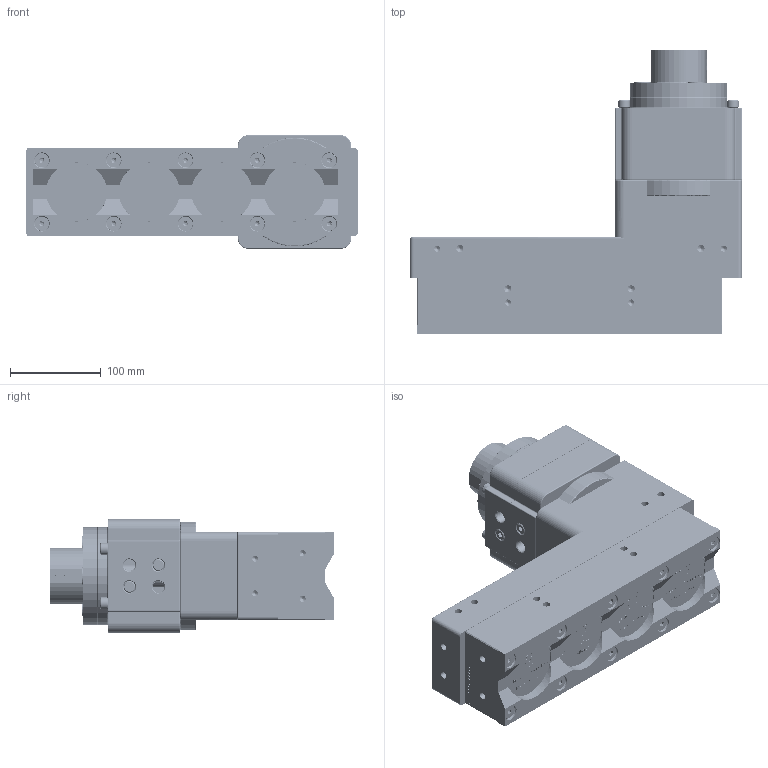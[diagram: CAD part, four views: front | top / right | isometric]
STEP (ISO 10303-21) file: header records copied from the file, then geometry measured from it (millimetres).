
FILE_DESCRIPTION (( 'STEP AP214' ), '1' );
FILE_NAME ('81401520_CFM_S.STEP', '2024-03-15T21:23:48', ( '' ), ( '' ), 'SwSTEP 2.0', 'SolidWorks 2022', '' );
FILE_SCHEMA (( 'AUTOMOTIVE_DESIGN' ));
Length unit declared in the file: millimetre
Products named in the file (18): 180790; 320319; 180718; 300938; CDRB1BW100-180S_CRB-Body; 7050188; 280032; 3002227; 180791; 240711; 7000659; 180047-1; 81401520_CFM_S; 180789; 7010411(Ä¬ÈÏ-_flexible1); CDRB1BW100-180S_CRB-Rod; 320070; 180311
Assembly tree (43 placements, depth 3):
  81401520_CFM_S
    7000659
      240711
      320070  x4
      320319  x2
      180047-1  x10
    280032
      CDRB1BW100-180S_CRB-Body
      CDRB1BW100-180S_CRB-Rod
    7010411(Ä¬ÈÏ-_flexible1)
      3002227
    180311  x4
    180718  x6
    7050188
      300938
      180791  x3
      180789  x4
      180790
Bounding box: 366.27 x 314 x 125 mm (x, y, z)
Volume: 5783257.4 mm3; surface area: 657471.6 mm2
Topology: 39 solids, 39 shells, 6726 faces, 17074 edges, 10747 vertices
Faces by surface type: plane 2246, cylinder 2014, bspline 1317, cone 1016, torus 125, sphere 8
Entity records: 125186 total; most frequent: CARTESIAN_POINT 61436, ORIENTED_EDGE 14190, DIRECTION 11045, EDGE_CURVE 7095, VERTEX_POINT 4590, LINE 3909, VECTOR 3909, AXIS2_PLACEMENT_3D 3568
